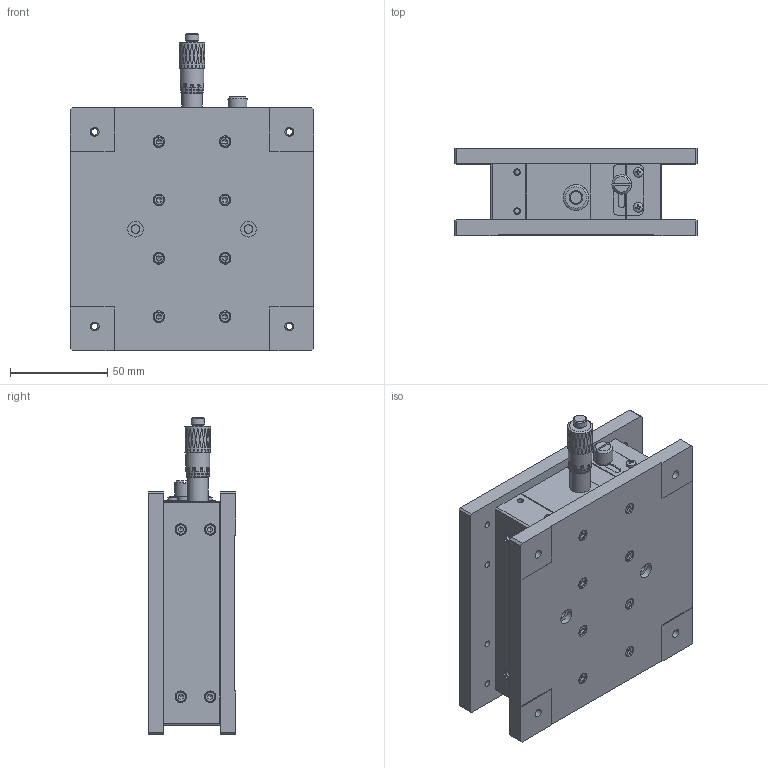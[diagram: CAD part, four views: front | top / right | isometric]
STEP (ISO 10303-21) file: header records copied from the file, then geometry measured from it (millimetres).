
FILE_DESCRIPTION (( 'STEP AP203' ), '1' );
FILE_NAME ('BLEZ125.STEP', '2024-07-03T12:37:14', ( 'Windows User' ), ( 'P R C' ), 'SwSTEP 2.0', 'SolidWorks 2024', '' );
FILE_SCHEMA (( 'CONFIG_CONTROL_DESIGN' ));
Length unit declared in the file: millimetre
Products named in the file (1): BLEZ125
Bounding box: 125 x 45 x 163.2 mm (x, y, z)
Volume: 485659.5 mm3; surface area: 161998.2 mm2
Topology: 48 solids, 48 shells, 1911 faces, 4594 edges, 2944 vertices
Faces by surface type: plane 845, cylinder 397, bspline 395, cone 229, torus 40, sphere 5
Full cylindrical faces by diameter (mm): 1.6 x1, 2.05 x4, 2.5 x31, 2.55 x16, 2.95 x9, 3 x24, 3.2 x1, 3.3 x26, 3.4 x33, 4.4 x16, 4.5 x6, 5 x5, 5.5 x27, 5.6 x1, 5.8 x7, 6 x26, 7 x3, 7.2 x1, 8 x6, 8.1 x2, 8.5 x1, 9.5 x2, 10 x1, 10.5 x1, 12.2 x1
Entity records: 83875 total; most frequent: CARTESIAN_POINT 45303, ORIENTED_EDGE 8004, DIRECTION 6542, EDGE_CURVE 4002, VERTEX_POINT 2782, EDGE_LOOP 2674, AXIS2_PLACEMENT_3D 2517, FACE_OUTER_BOUND 2171
